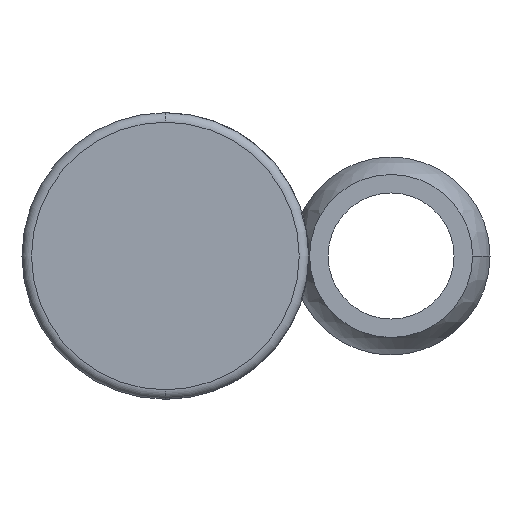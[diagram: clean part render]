
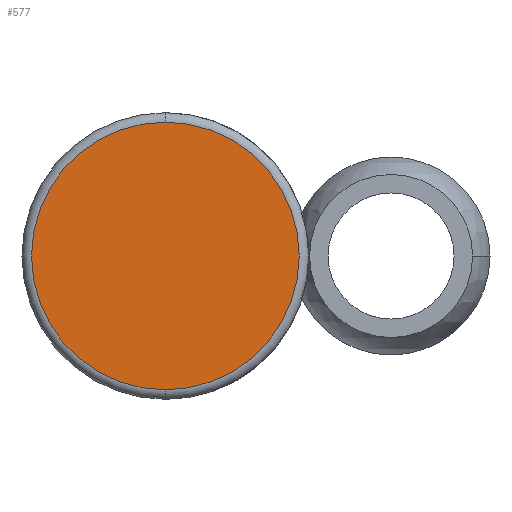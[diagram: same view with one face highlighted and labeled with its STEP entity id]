
A CAD part, front view. The second image highlights one B-rep face of the part: STEP entity #577.
In plain terms, the highlighted planar face has unit normal (0, -1, 0).
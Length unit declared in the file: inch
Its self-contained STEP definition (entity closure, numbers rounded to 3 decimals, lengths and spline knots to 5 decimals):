
#46 = EDGE_CURVE ( 'NONE', #161, #901, #1345, .T. ) ;
#96 = FACE_OUTER_BOUND ( 'NONE', #559, .T. ) ;
#99 = AXIS2_PLACEMENT_3D ( 'NONE', #386, #1024, #705 ) ;
#161 = VERTEX_POINT ( 'NONE', #1251 ) ;
#165 = AXIS2_PLACEMENT_3D ( 'NONE', #205, #516, #507 ) ;
#181 = PLANE ( 'NONE',  #99 ) ;
#205 = CARTESIAN_POINT ( 'NONE',  ( 0., -1.575, 0. ) ) ;
#236 = CARTESIAN_POINT ( 'NONE',  ( 0., -1.575, 0.42276 ) ) ;
#280 = ORIENTED_EDGE ( 'NONE', *, *, #584, .T. ) ;
#282 = AXIS2_PLACEMENT_3D ( 'NONE', #905, #590, #702 ) ;
#386 = CARTESIAN_POINT ( 'NONE',  ( 0., -1.575, 0. ) ) ;
#489 = CIRCLE ( 'NONE', #165, 0.42276 ) ;
#507 = DIRECTION ( 'NONE',  ( 0., 0., 1. ) ) ;
#516 = DIRECTION ( 'NONE',  ( 0., -1., 0. ) ) ;
#559 = EDGE_LOOP ( 'NONE', ( #280, #966 ) ) ;
#577 = ADVANCED_FACE ( 'NONE', ( #96 ), #181, .F. ) ;
#584 = EDGE_CURVE ( 'NONE', #901, #161, #489, .T. ) ;
#590 = DIRECTION ( 'NONE',  ( 0., -1., 0. ) ) ;
#702 = DIRECTION ( 'NONE',  ( 0., 0., 1. ) ) ;
#705 = DIRECTION ( 'NONE',  ( 0., 0., 1. ) ) ;
#901 = VERTEX_POINT ( 'NONE', #236 ) ;
#905 = CARTESIAN_POINT ( 'NONE',  ( 0., -1.575, 0. ) ) ;
#966 = ORIENTED_EDGE ( 'NONE', *, *, #46, .T. ) ;
#1024 = DIRECTION ( 'NONE',  ( 0., 1., 0. ) ) ;
#1251 = CARTESIAN_POINT ( 'NONE',  ( 0., -1.575, -0.42276 ) ) ;
#1345 = CIRCLE ( 'NONE', #282, 0.42276 ) ;
